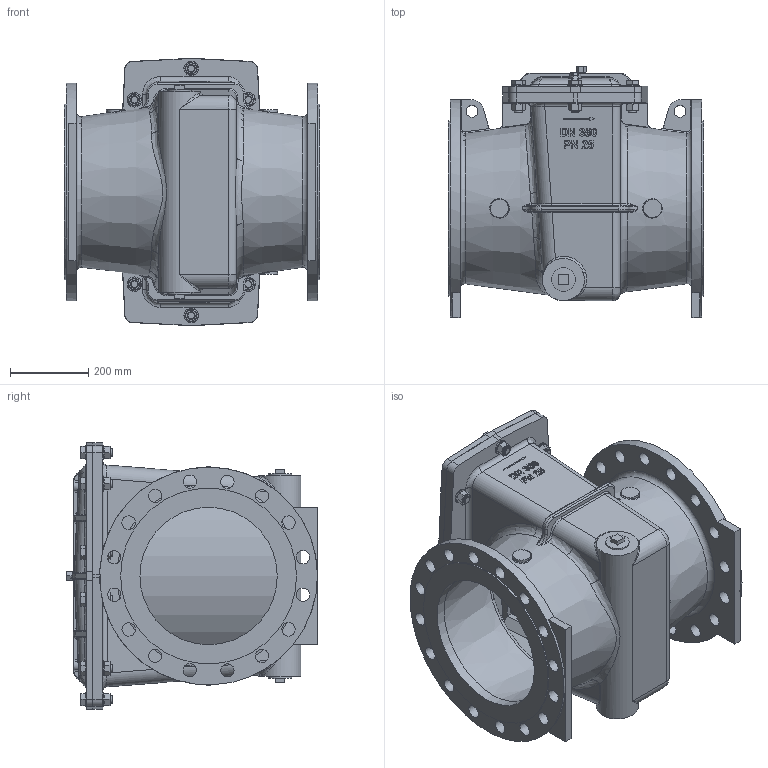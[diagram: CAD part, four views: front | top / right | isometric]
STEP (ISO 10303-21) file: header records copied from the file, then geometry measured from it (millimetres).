
FILE_DESCRIPTION(/* description */ ('DN 350 / PN 16'),/* implementation_level */ '2;1');
FILE_NAME(/* name */ 'G:\Doc_Liberes\SymbolesCAD\Modeles_3D\FichierSTP\Aqua\Aqua90501\FAB350_25.stp',/* time_stamp */ '2017-11-27T10:35:55+01:00',/* author */ ('Cédric'),/* organization */ (''),/* preprocessor_version */ 'ST-DEVELOPER v16.13',/* originating_system */ 'Autodesk Inventor 2018',/* authorisation */ '');
FILE_SCHEMA (('AUTOMOTIVE_DESIGN { 1 0 10303 214 3 1 1 }'));
Length unit declared in the file: millimetre
Products named in the file (15): FAB350-25; 58094-40; 58078-40; 58079; 58079prot; 58079tam; 57576-02; 57576-07; 57507; 58077-40; 300656-12; ISO 4017 - M20 x 70; ISO 7089 - 20 - 140 HV; ISO 4032 - M20; DIN EN 10242 Bouchon mâle plat T8 2
Assembly tree (52 placements, depth 3):
  FAB350-25
    58094-40
    58078-40
    58079
      58079prot
      58079tam
    ISO 7089 - 20 - 140 HV  x20
    ISO 4032 - M20  x10
    ISO 4017 - M20 x 70  x10
    57576-02
      57576-07
      57507
    58077-40
    300656-12
    DIN EN 10242 Bouchon mâle plat T8 2  x2
Bounding box: 650 x 639.5 x 680 mm (x, y, z)
Volume: 35531467.1 mm3; surface area: 5107622.2 mm2
Topology: 50 solids, 50 shells, 3100 faces, 7781 edges, 4794 vertices
Faces by surface type: plane 1278, cylinder 836, bspline 603, torus 243, cone 140
Full cylindrical faces by diameter (mm): 1.6 x1, 2.3 x1, 6.5 x1, 6.92 x1, 8 x1, 10 x4, 10.11 x2, 14 x1, 17.294 x10, 18.63 x1, 20 x10, 20.955 x1, 21 x20, 22 x20, 28.19 x10, 30 x2, 34 x32, 37 x20, 46 x3, 56.66 x2, 350 x2, 448 x2, 555 x2
Entity records: 100816 total; most frequent: CARTESIAN_POINT 36949, ORIENTED_EDGE 13648, DIRECTION 12151, EDGE_CURVE 6824, AXIS2_PLACEMENT_3D 4367, VERTEX_POINT 4251, LINE 3417, VECTOR 3417
